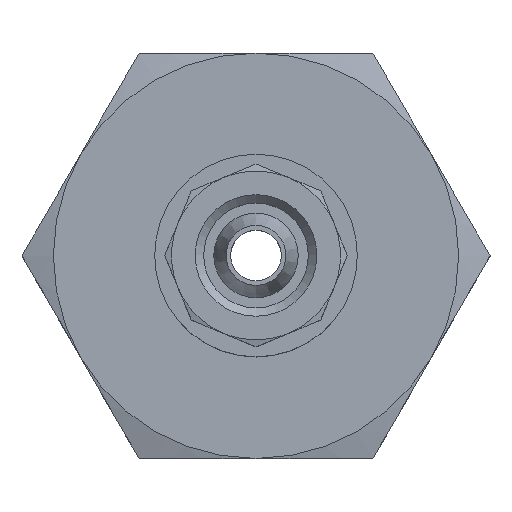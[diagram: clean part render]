
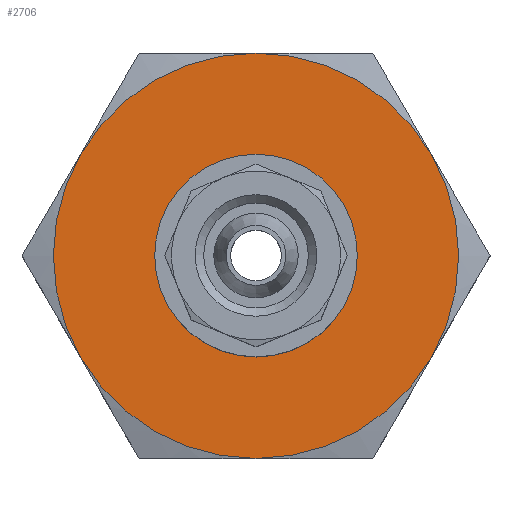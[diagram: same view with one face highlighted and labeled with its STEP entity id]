
A CAD part, top view. The second image highlights one B-rep face of the part: STEP entity #2706.
In plain terms, the highlighted planar face has unit normal (0, 0, 1) as drawn and (0, 1, 0) by its records, which use the part's own axes.
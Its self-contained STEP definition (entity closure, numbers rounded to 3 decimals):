
#1237=PLANE('',#2571);
#1383=ORIENTED_EDGE('',*,*,#1668,.T.);
#1384=ORIENTED_EDGE('',*,*,#1670,.T.);
#1385=ORIENTED_EDGE('',*,*,#1671,.F.);
#1386=ORIENTED_EDGE('',*,*,#1672,.T.);
#1387=ORIENTED_EDGE('',*,*,#1657,.T.);
#1388=ORIENTED_EDGE('',*,*,#1663,.T.);
#1389=ORIENTED_EDGE('',*,*,#1673,.F.);
#1494=CIRCLE('',#2556,12.);
#1495=CIRCLE('',#2563,12.);
#1496=CIRCLE('',#2569,12.);
#1497=CIRCLE('',#2572,12.);
#1498=CIRCLE('',#2573,12.);
#1499=CIRCLE('',#2574,12.);
#1500=CIRCLE('',#2575,4.25);
#1559=VERTEX_POINT('',#2347);
#1564=VERTEX_POINT('',#2359);
#1568=VERTEX_POINT('',#2371);
#1572=VERTEX_POINT('',#2383);
#1573=VERTEX_POINT('',#2387);
#1574=VERTEX_POINT('',#2389);
#1575=VERTEX_POINT('',#2392);
#1657=EDGE_CURVE('',#1559,#1564,#1494,.T.);
#1663=EDGE_CURVE('',#1564,#1568,#1495,.T.);
#1668=EDGE_CURVE('',#1568,#1572,#1496,.T.);
#1670=EDGE_CURVE('',#1572,#1573,#1497,.T.);
#1671=EDGE_CURVE('',#1574,#1573,#1498,.T.);
#1672=EDGE_CURVE('',#1574,#1559,#1499,.T.);
#1673=EDGE_CURVE('',#1575,#1575,#1500,.T.);
#1754=EDGE_LOOP('',(#1383,#1384,#1385,#1386,#1387,#1388));
#1755=EDGE_LOOP('',(#1389));
#1848=FACE_BOUND('',#1754,.T.);
#1849=FACE_BOUND('',#1755,.T.);
#2056=DIRECTION('',(0.,1.,0.));
#2057=DIRECTION('',(0.,0.,-12.));
#2071=DIRECTION('',(0.,1.,0.));
#2072=DIRECTION('',(0.,0.,-12.));
#2084=DIRECTION('',(0.,1.,0.));
#2085=DIRECTION('',(0.,0.,-12.));
#2088=DIRECTION('',(0.,1.,0.));
#2089=DIRECTION('',(1.,0.,0.));
#2090=DIRECTION('',(0.,1.,0.));
#2091=DIRECTION('',(0.,0.,-12.));
#2092=DIRECTION('',(0.,-1.,0.));
#2093=DIRECTION('',(0.,0.,12.));
#2094=DIRECTION('',(0.,1.,0.));
#2095=DIRECTION('',(0.,0.,-12.));
#2096=DIRECTION('',(0.,1.,0.));
#2097=DIRECTION('',(0.,0.,-4.25));
#2347=CARTESIAN_POINT('',(0.523,23.784,-6.));
#2359=CARTESIAN_POINT('',(0.523,23.784,6.));
#2361=CARTESIAN_POINT('',(10.916,23.784,0.));
#2371=CARTESIAN_POINT('',(10.916,23.784,12.));
#2373=CARTESIAN_POINT('',(10.916,23.784,0.));
#2383=CARTESIAN_POINT('',(21.308,23.784,6.));
#2384=CARTESIAN_POINT('',(10.916,23.784,0.));
#2386=CARTESIAN_POINT('',(10.916,23.784,-12.));
#2387=CARTESIAN_POINT('',(21.308,23.784,-6.));
#2388=CARTESIAN_POINT('',(10.916,23.784,0.));
#2389=CARTESIAN_POINT('',(10.916,23.784,-12.));
#2390=CARTESIAN_POINT('',(10.916,23.784,0.));
#2391=CARTESIAN_POINT('',(10.916,23.784,0.));
#2392=CARTESIAN_POINT('',(10.916,23.784,-4.25));
#2393=CARTESIAN_POINT('',(10.916,23.784,0.));
#2556=AXIS2_PLACEMENT_3D('',#2361,#2056,#2057);
#2563=AXIS2_PLACEMENT_3D('',#2373,#2071,#2072);
#2569=AXIS2_PLACEMENT_3D('',#2384,#2084,#2085);
#2571=AXIS2_PLACEMENT_3D('',#2386,#2088,#2089);
#2572=AXIS2_PLACEMENT_3D('',#2388,#2090,#2091);
#2573=AXIS2_PLACEMENT_3D('',#2390,#2092,#2093);
#2574=AXIS2_PLACEMENT_3D('',#2391,#2094,#2095);
#2575=AXIS2_PLACEMENT_3D('',#2393,#2096,#2097);
#2706=ADVANCED_FACE('',(#1848,#1849),#1237,.T.);
